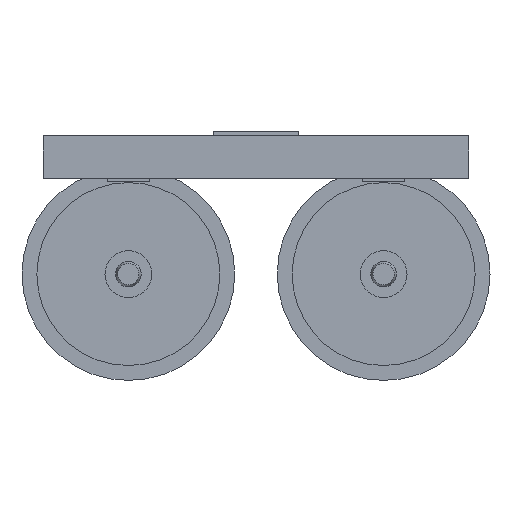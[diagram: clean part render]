
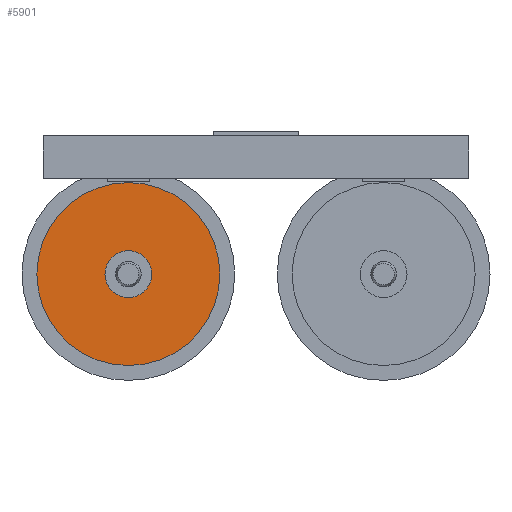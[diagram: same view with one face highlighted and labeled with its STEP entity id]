
A CAD part, front view. The second image highlights one B-rep face of the part: STEP entity #5901.
In plain terms, the highlighted planar face has unit normal (0, -1, 0).
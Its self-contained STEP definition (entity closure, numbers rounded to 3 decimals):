
#5742 = CYLINDRICAL_SURFACE('',#5743,110.);
#5743 = AXIS2_PLACEMENT_3D('',#5744,#5745,#5746);
#5744 = CARTESIAN_POINT('',(-600.,-577.2,500.));
#5745 = DIRECTION('',(0.,1.,0.));
#5746 = DIRECTION('',(0.,-0.,1.));
#5815 = EDGE_CURVE('',#5816,#5816,#5818,.T.);
#5816 = VERTEX_POINT('',#5817);
#5817 = CARTESIAN_POINT('',(-600.,-519.7,610.));
#5818 = SURFACE_CURVE('',#5819,(#5824,#5831),.PCURVE_S1.);
#5819 = CIRCLE('',#5820,110.);
#5820 = AXIS2_PLACEMENT_3D('',#5821,#5822,#5823);
#5821 = CARTESIAN_POINT('',(-600.,-519.7,500.));
#5822 = DIRECTION('',(0.,1.,0.));
#5823 = DIRECTION('',(0.,-0.,1.));
#5824 = PCURVE('',#5742,#5825);
#5825 = DEFINITIONAL_REPRESENTATION('',(#5826),#5830);
#5826 = LINE('',#5827,#5828);
#5827 = CARTESIAN_POINT('',(0.,57.5));
#5828 = VECTOR('',#5829,1.);
#5829 = DIRECTION('',(1.,0.));
#5830 = ( GEOMETRIC_REPRESENTATION_CONTEXT(2) 
PARAMETRIC_REPRESENTATION_CONTEXT() REPRESENTATION_CONTEXT('2D SPACE',''
  ) );
#5831 = PCURVE('',#5832,#5837);
#5832 = PLANE('',#5833);
#5833 = AXIS2_PLACEMENT_3D('',#5834,#5835,#5836);
#5834 = CARTESIAN_POINT('',(-600.,-519.7,500.));
#5835 = DIRECTION('',(0.,1.,0.));
#5836 = DIRECTION('',(0.,-0.,1.));
#5837 = DEFINITIONAL_REPRESENTATION('',(#5838),#5842);
#5838 = CIRCLE('',#5839,110.);
#5839 = AXIS2_PLACEMENT_2D('',#5840,#5841);
#5840 = CARTESIAN_POINT('',(0.,0.));
#5841 = DIRECTION('',(1.,0.));
#5842 = ( GEOMETRIC_REPRESENTATION_CONTEXT(2) 
PARAMETRIC_REPRESENTATION_CONTEXT() REPRESENTATION_CONTEXT('2D SPACE',''
  ) );
#5890 = CYLINDRICAL_SURFACE('',#5891,430.);
#5891 = AXIS2_PLACEMENT_3D('',#5892,#5893,#5894);
#5892 = CARTESIAN_POINT('',(-600.,-558.2,500.));
#5893 = DIRECTION('',(0.,1.,0.));
#5894 = DIRECTION('',(0.,-0.,1.));
#5901 = ADVANCED_FACE('',(#5902,#5928),#5832,.F.);
#5902 = FACE_BOUND('',#5903,.F.);
#5903 = EDGE_LOOP('',(#5904));
#5904 = ORIENTED_EDGE('',*,*,#5905,.T.);
#5905 = EDGE_CURVE('',#5906,#5906,#5908,.T.);
#5906 = VERTEX_POINT('',#5907);
#5907 = CARTESIAN_POINT('',(-600.,-519.7,930.));
#5908 = SURFACE_CURVE('',#5909,(#5914,#5921),.PCURVE_S1.);
#5909 = CIRCLE('',#5910,430.);
#5910 = AXIS2_PLACEMENT_3D('',#5911,#5912,#5913);
#5911 = CARTESIAN_POINT('',(-600.,-519.7,500.));
#5912 = DIRECTION('',(0.,1.,0.));
#5913 = DIRECTION('',(0.,-0.,1.));
#5914 = PCURVE('',#5832,#5915);
#5915 = DEFINITIONAL_REPRESENTATION('',(#5916),#5920);
#5916 = CIRCLE('',#5917,430.);
#5917 = AXIS2_PLACEMENT_2D('',#5918,#5919);
#5918 = CARTESIAN_POINT('',(0.,0.));
#5919 = DIRECTION('',(1.,0.));
#5920 = ( GEOMETRIC_REPRESENTATION_CONTEXT(2) 
PARAMETRIC_REPRESENTATION_CONTEXT() REPRESENTATION_CONTEXT('2D SPACE',''
  ) );
#5921 = PCURVE('',#5890,#5922);
#5922 = DEFINITIONAL_REPRESENTATION('',(#5923),#5927);
#5923 = LINE('',#5924,#5925);
#5924 = CARTESIAN_POINT('',(0.,38.5));
#5925 = VECTOR('',#5926,1.);
#5926 = DIRECTION('',(1.,0.));
#5927 = ( GEOMETRIC_REPRESENTATION_CONTEXT(2) 
PARAMETRIC_REPRESENTATION_CONTEXT() REPRESENTATION_CONTEXT('2D SPACE',''
  ) );
#5928 = FACE_BOUND('',#5929,.F.);
#5929 = EDGE_LOOP('',(#5930));
#5930 = ORIENTED_EDGE('',*,*,#5815,.F.);
